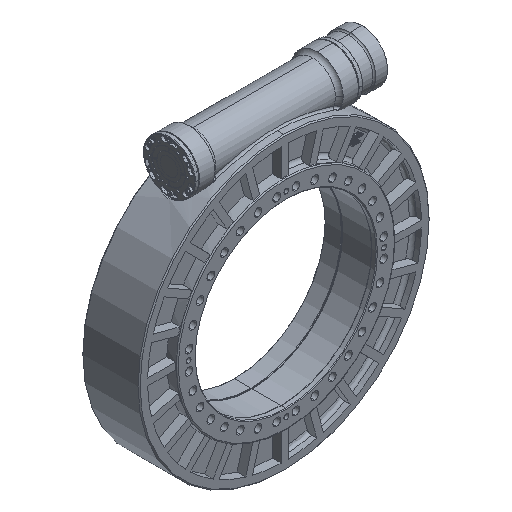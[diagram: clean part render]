
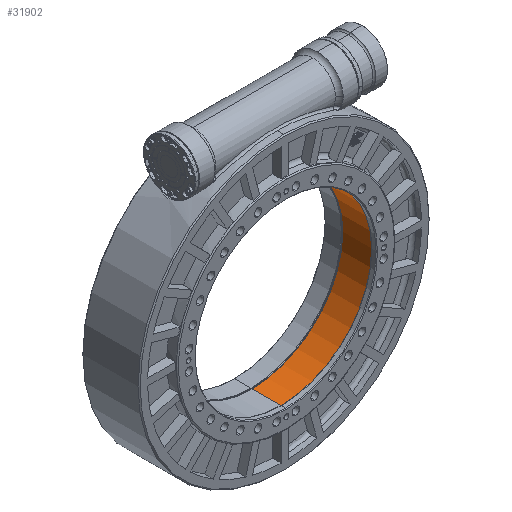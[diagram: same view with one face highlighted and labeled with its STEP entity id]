
A CAD part, isometric view. The second image highlights one B-rep face of the part: STEP entity #31902.
In plain terms, the highlighted cylindrical face has radius 262 mm (diameter 524 mm), a partial arc.
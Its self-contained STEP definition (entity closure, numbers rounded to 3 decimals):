
#799 = VERTEX_POINT ( 'NONE', #24959 ) ;
#3478 = EDGE_CURVE ( 'NONE', #799, #3495, #62265, .T. ) ;
#3495 = VERTEX_POINT ( 'NONE', #30830 ) ;
#6459 = VECTOR ( 'NONE', #54946, 1000. ) ;
#8132 = VERTEX_POINT ( 'NONE', #33607 ) ;
#10039 = LINE ( 'NONE', #58423, #37708 ) ;
#13413 = CARTESIAN_POINT ( 'NONE',  ( 0., 110., 262. ) ) ;
#20391 = DIRECTION ( 'NONE',  ( 0., -1., 0. ) ) ;
#21291 = CYLINDRICAL_SURFACE ( 'NONE', #45478, 262. ) ;
#22141 = ORIENTED_EDGE ( 'NONE', *, *, #30787, .T. ) ;
#22598 = CIRCLE ( 'NONE', #52440, 262. ) ;
#22939 = CARTESIAN_POINT ( 'NONE',  ( 0., 10., 0. ) ) ;
#23681 = ORIENTED_EDGE ( 'NONE', *, *, #65336, .F. ) ;
#24959 = CARTESIAN_POINT ( 'NONE',  ( 0., 94., -262. ) ) ;
#25555 = DIRECTION ( 'NONE',  ( 0., 0., -1. ) ) ;
#27385 = DIRECTION ( 'NONE',  ( 0., -1., 0. ) ) ;
#28169 = DIRECTION ( 'NONE',  ( 0., 0., -1. ) ) ;
#30787 = EDGE_CURVE ( 'NONE', #799, #8132, #10039, .T. ) ;
#30830 = CARTESIAN_POINT ( 'NONE',  ( 0., 94., 262. ) ) ;
#31902 = ADVANCED_FACE ( 'NONE', ( #36777 ), #21291, .F. ) ;
#32506 = LINE ( 'NONE', #13413, #6459 ) ;
#33607 = CARTESIAN_POINT ( 'NONE',  ( 0., 10., -262. ) ) ;
#34974 = DIRECTION ( 'NONE',  ( 0., 0., -1. ) ) ;
#36777 = FACE_OUTER_BOUND ( 'NONE', #49299, .T. ) ;
#37708 = VECTOR ( 'NONE', #27385, 1000. ) ;
#39523 = ORIENTED_EDGE ( 'NONE', *, *, #54215, .T. ) ;
#39794 = VERTEX_POINT ( 'NONE', #41462 ) ;
#41095 = AXIS2_PLACEMENT_3D ( 'NONE', #56616, #48627, #25555 ) ;
#41462 = CARTESIAN_POINT ( 'NONE',  ( 0., 10., 262. ) ) ;
#45478 = AXIS2_PLACEMENT_3D ( 'NONE', #51556, #20391, #34974 ) ;
#48627 = DIRECTION ( 'NONE',  ( 0., -1., 0. ) ) ;
#49299 = EDGE_LOOP ( 'NONE', ( #23681, #66597, #22141, #39523 ) ) ;
#51556 = CARTESIAN_POINT ( 'NONE',  ( 0., 110., 0. ) ) ;
#52440 = AXIS2_PLACEMENT_3D ( 'NONE', #22939, #59182, #28169 ) ;
#54215 = EDGE_CURVE ( 'NONE', #8132, #39794, #22598, .T. ) ;
#54946 = DIRECTION ( 'NONE',  ( 0., -1., 0. ) ) ;
#56616 = CARTESIAN_POINT ( 'NONE',  ( 0., 94., 0. ) ) ;
#58423 = CARTESIAN_POINT ( 'NONE',  ( 0., 110., -262. ) ) ;
#59182 = DIRECTION ( 'NONE',  ( 0., -1., 0. ) ) ;
#62265 = CIRCLE ( 'NONE', #41095, 262. ) ;
#65336 = EDGE_CURVE ( 'NONE', #3495, #39794, #32506, .T. ) ;
#66597 = ORIENTED_EDGE ( 'NONE', *, *, #3478, .F. ) ;
